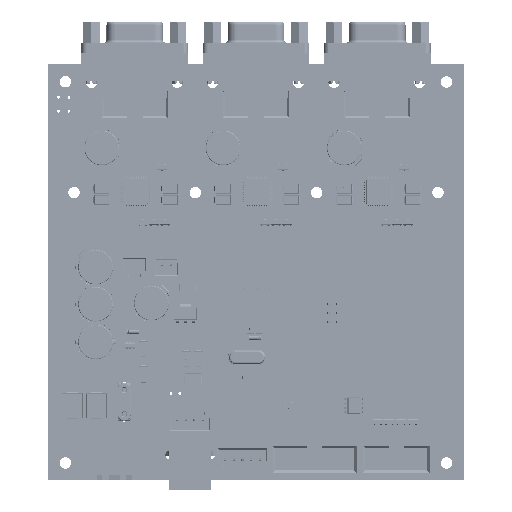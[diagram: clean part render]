
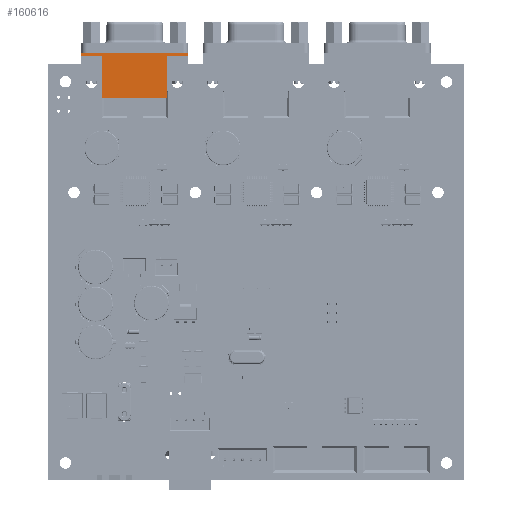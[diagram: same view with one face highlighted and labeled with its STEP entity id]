
A CAD part, top view. The second image highlights one B-rep face of the part: STEP entity #160616.
In plain terms, the highlighted planar face has unit normal (0, 0, 1) as drawn and (0, 1, 0) by its records, which use the part's own axes.
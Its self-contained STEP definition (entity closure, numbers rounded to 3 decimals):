
#160468 = VERTEX_POINT('',#160469);
#160469 = CARTESIAN_POINT('',(-15.4,4.35,-9.9));
#160475 = EDGE_CURVE('',#160468,#160476,#160478,.T.);
#160476 = VERTEX_POINT('',#160477);
#160477 = CARTESIAN_POINT('',(-15.4,4.35,-8.94));
#160478 = LINE('',#160479,#160480);
#160479 = CARTESIAN_POINT('',(-15.4,4.35,-9.9));
#160480 = VECTOR('',#160481,1.);
#160481 = DIRECTION('',(0.,0.,1.));
#160598 = EDGE_CURVE('',#160476,#160599,#160601,.T.);
#160599 = VERTEX_POINT('',#160600);
#160600 = CARTESIAN_POINT('',(15.4,4.35,-8.94));
#160601 = LINE('',#160602,#160603);
#160602 = CARTESIAN_POINT('',(-15.4,4.35,-8.94));
#160603 = VECTOR('',#160604,1.);
#160604 = DIRECTION('',(1.,0.,0.));
#160616 = ADVANCED_FACE('',(#160617),#160667,.T.);
#160617 = FACE_BOUND('',#160618,.F.);
#160618 = EDGE_LOOP('',(#160619,#160629,#160637,#160643,#160644,#160645,
    #160653,#160661));
#160619 = ORIENTED_EDGE('',*,*,#160620,.T.);
#160620 = EDGE_CURVE('',#160621,#160623,#160625,.T.);
#160621 = VERTEX_POINT('',#160622);
#160622 = CARTESIAN_POINT('',(9.3,4.35,-22.));
#160623 = VERTEX_POINT('',#160624);
#160624 = CARTESIAN_POINT('',(9.3,4.35,-9.9));
#160625 = LINE('',#160626,#160627);
#160626 = CARTESIAN_POINT('',(9.3,4.35,-22.));
#160627 = VECTOR('',#160628,1.);
#160628 = DIRECTION('',(0.,0.,1.));
#160629 = ORIENTED_EDGE('',*,*,#160630,.F.);
#160630 = EDGE_CURVE('',#160631,#160623,#160633,.T.);
#160631 = VERTEX_POINT('',#160632);
#160632 = CARTESIAN_POINT('',(15.4,4.35,-9.9));
#160633 = LINE('',#160634,#160635);
#160634 = CARTESIAN_POINT('',(15.4,4.35,-9.9));
#160635 = VECTOR('',#160636,1.);
#160636 = DIRECTION('',(-1.,0.,0.));
#160637 = ORIENTED_EDGE('',*,*,#160638,.T.);
#160638 = EDGE_CURVE('',#160631,#160599,#160639,.T.);
#160639 = LINE('',#160640,#160641);
#160640 = CARTESIAN_POINT('',(15.4,4.35,-9.9));
#160641 = VECTOR('',#160642,1.);
#160642 = DIRECTION('',(0.,0.,1.));
#160643 = ORIENTED_EDGE('',*,*,#160598,.F.);
#160644 = ORIENTED_EDGE('',*,*,#160475,.F.);
#160645 = ORIENTED_EDGE('',*,*,#160646,.T.);
#160646 = EDGE_CURVE('',#160468,#160647,#160649,.T.);
#160647 = VERTEX_POINT('',#160648);
#160648 = CARTESIAN_POINT('',(-9.3,4.35,-9.9));
#160649 = LINE('',#160650,#160651);
#160650 = CARTESIAN_POINT('',(-15.4,4.35,-9.9));
#160651 = VECTOR('',#160652,1.);
#160652 = DIRECTION('',(1.,0.,0.));
#160653 = ORIENTED_EDGE('',*,*,#160654,.F.);
#160654 = EDGE_CURVE('',#160655,#160647,#160657,.T.);
#160655 = VERTEX_POINT('',#160656);
#160656 = CARTESIAN_POINT('',(-9.3,4.35,-22.));
#160657 = LINE('',#160658,#160659);
#160658 = CARTESIAN_POINT('',(-9.3,4.35,-22.));
#160659 = VECTOR('',#160660,1.);
#160660 = DIRECTION('',(0.,0.,1.));
#160661 = ORIENTED_EDGE('',*,*,#160662,.T.);
#160662 = EDGE_CURVE('',#160655,#160621,#160663,.T.);
#160663 = LINE('',#160664,#160665);
#160664 = CARTESIAN_POINT('',(-9.3,4.35,-22.));
#160665 = VECTOR('',#160666,1.);
#160666 = DIRECTION('',(1.,0.,0.));
#160667 = PLANE('',#160668);
#160668 = AXIS2_PLACEMENT_3D('',#160669,#160670,#160671);
#160669 = CARTESIAN_POINT('',(-15.4,4.35,-22.));
#160670 = DIRECTION('',(0.,1.,0.));
#160671 = DIRECTION('',(0.,0.,1.));
